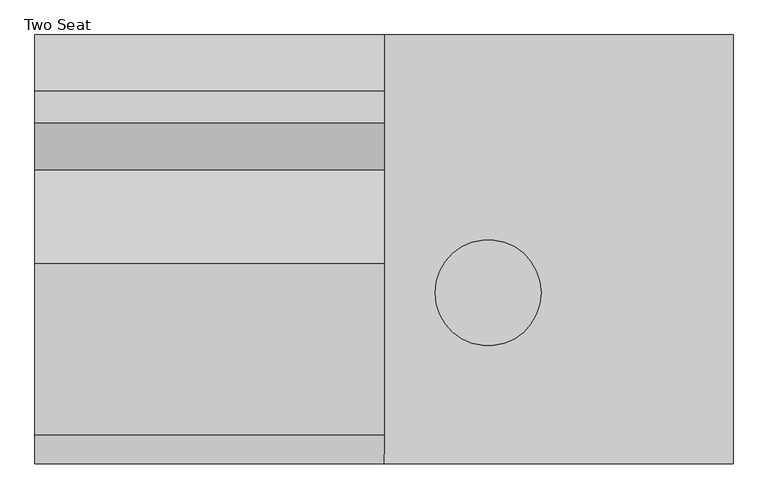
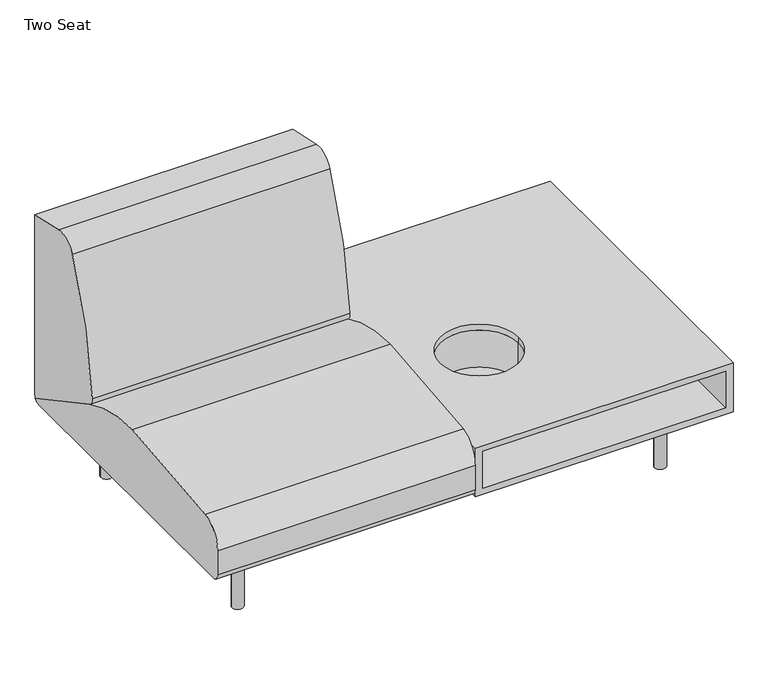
"""IFC4 building model written with IfcOpenShell, lengths in millimetres: furniture geometry, Coalesse_AM_Seating_LoungeChair_Sistema_LegBase_TwoSeat : Two Seat."""

from ifc_helpers import new_model, si_unit, point, frame, frame_2d, origin, origin_with_axes, place, context, project, spatial, polyline, circle_curve, trimmed, segment, composite_curve, outline, extrude, source, transform, mapped, element, save
from ifc_brep_helpers import plane_surface, cylinder_surface, revolved_surface, advanced_brep


def two_seat_571620ac(model_context):
    return source(origin(), model_context, "Body", "SolidModel", [
        extrude(outline(composite_curve([segment(trimmed(circle_curve(frame_2d((989.1765227, 335.9943389)), 6.096), [point((995.2725227, 335.9943389))], [point((983.0805227, 335.9943389))], False, "CARTESIAN"), True, "CONTINUOUS"), segment(trimmed(circle_curve(frame_2d((989.1765227, 335.9943389)), 6.096), [point((983.0805227, 335.9943389))], [point((995.2725227, 335.9943389))], False, "CARTESIAN"), True, "CONTINUOUS")], self_intersect=False)), origin_with_axes(), (0.0, 0.0, 1.0), 4.3662291),
        extrude(outline(composite_curve([segment(trimmed(circle_curve(frame_2d((989.1765227, -327.2630889)), 6.096), [point((995.2725227, -327.2630889))], [point((983.0805227, -327.2630889))], False, "CARTESIAN"), True, "CONTINUOUS"), segment(trimmed(circle_curve(frame_2d((989.1765227, -327.2630889)), 6.096), [point((983.0805227, -327.2630889))], [point((995.2725227, -327.2630889))], False, "CARTESIAN"), True, "CONTINUOUS")], self_intersect=False)), origin_with_axes(), (0.0, 0.0, 1.0), 4.3662291),
        extrude(outline(composite_curve([segment(polyline([(157.0399209, 1001.756375), (201.7356243, 1001.756375)]), True, "CONTINUOUS"), segment(trimmed(circle_curve(frame_2d((201.7356243, 998.708375)), 3.048), [point((201.7356243, 1001.756375))], [point((204.7836243, 998.708375))], False, "CARTESIAN"), True, "CONTINUOUS"), segment(polyline([(204.7836243, 998.708375), (204.7836243, 979.366199)]), True, "CONTINUOUS"), segment(trimmed(circle_curve(frame_2d((201.7356243, 979.366199)), 3.048), [point((204.7836243, 979.366199))], [point((201.7356243, 976.318199))], False, "CARTESIAN"), True, "CONTINUOUS"), segment(polyline([(201.7356243, 976.318199), (157.1249936, 976.318199)]), True, "CONTINUOUS"), segment(trimmed(circle_curve(frame_2d((157.1249936, 979.4512718)), 3.1330728), [point((157.1249936, 976.318199))], [point((153.9919209, 979.4512718))], False, "CARTESIAN"), True, "CONTINUOUS"), segment(polyline([(153.9919209, 979.4512718), (153.9919209, 998.708375)]), True, "CONTINUOUS"), segment(trimmed(circle_curve(frame_2d((157.0399209, 998.708375)), 3.048), [point((153.9919209, 998.708375))], [point((157.0399209, 1001.756375))], False, "CARTESIAN"), True, "CONTINUOUS")], self_intersect=False)), frame((0.0, 222.3519802, 0.0), z_axis=(0.0, 1.0, 0.0), x_axis=(0.0, 0.0, 1.0)), (0.0, 0.0, 1.0), 92.6273161),
        extrude(outline(composite_curve([segment(polyline([(157.0399209, 1001.756375), (201.7356243, 1001.756375)]), True, "CONTINUOUS"), segment(trimmed(circle_curve(frame_2d((201.7356243, 998.708375)), 3.048), [point((201.7356243, 1001.756375))], [point((204.7836243, 998.708375))], False, "CARTESIAN"), True, "CONTINUOUS"), segment(polyline([(204.7836243, 998.708375), (204.7836243, 979.366199)]), True, "CONTINUOUS"), segment(trimmed(circle_curve(frame_2d((201.7356243, 979.366199)), 3.048), [point((204.7836243, 979.366199))], [point((201.7356243, 976.318199))], False, "CARTESIAN"), True, "CONTINUOUS"), segment(polyline([(201.7356243, 976.318199), (157.1249936, 976.318199)]), True, "CONTINUOUS"), segment(trimmed(circle_curve(frame_2d((157.1249936, 979.4512718)), 3.1330728), [point((157.1249936, 976.318199))], [point((153.9919209, 979.4512718))], False, "CARTESIAN"), True, "CONTINUOUS"), segment(polyline([(153.9919209, 979.4512718), (153.9919209, 998.708375)]), True, "CONTINUOUS"), segment(trimmed(circle_curve(frame_2d((157.0399209, 998.708375)), 3.048), [point((153.9919209, 998.708375))], [point((157.0399209, 1001.756375))], False, "CARTESIAN"), True, "CONTINUOUS")], self_intersect=False)), frame((0.0, -314.9792963, 0.0), z_axis=(0.0, 1.0, 0.0), x_axis=(0.0, 0.0, 1.0)), (0.0, 0.0, 1.0), 92.6273161),
        extrude(outline(composite_curve([segment(trimmed(circle_curve(frame_2d((176.3356606, 966.5259944)), 3.048), [point((179.3836606, 966.5259944))], [point((176.3356606, 963.4779944))], False, "CARTESIAN"), True, "CONTINUOUS"), segment(polyline([(176.3356606, 963.4779944), (157.0399209, 963.4779944)]), True, "CONTINUOUS"), segment(trimmed(circle_curve(frame_2d((157.0399209, 966.5259944)), 3.048), [point((157.0399209, 963.4779944))], [point((153.9919209, 966.5259944))], False, "CARTESIAN"), True, "CONTINUOUS"), segment(polyline([(153.9919209, 966.5259944), (153.9919209, 1011.2135501)]), True, "CONTINUOUS"), segment(trimmed(circle_curve(frame_2d((157.056462, 1011.2135501)), 3.0645412), [point((153.9919209, 1011.2135501))], [point((157.056462, 1014.2780913))], False, "CARTESIAN"), True, "CONTINUOUS"), segment(polyline([(157.056462, 1014.2780913), (176.3356606, 1014.2780913)]), True, "CONTINUOUS"), segment(trimmed(circle_curve(frame_2d((176.3356606, 1011.2300913)), 3.048), [point((176.3356606, 1014.2780913))], [point((179.3836606, 1011.2300913))], False, "CARTESIAN"), True, "CONTINUOUS"), segment(polyline([(179.3836606, 1011.2300913), (179.3836606, 966.5259944)]), True, "CONTINUOUS")], self_intersect=False)), frame((0.0, -222.3519802, 0.0), z_axis=(0.0, 1.0, 0.0), x_axis=(0.0, 0.0, 1.0)), (0.0, 0.0, 1.0), 444.7039604),
        extrude(outline(composite_curve([segment(trimmed(circle_curve(frame_2d((989.1765227, 332.3095741)), 16.51), [point((1005.6865227, 332.3095741))], [point((972.6665227, 332.3095741))], False, "CARTESIAN"), True, "CONTINUOUS"), segment(trimmed(circle_curve(frame_2d((989.1765227, 332.3095741)), 16.51), [point((972.6665227, 332.3095741))], [point((1005.6865227, 332.3095741))], False, "CARTESIAN"), True, "CONTINUOUS")], self_intersect=False)), frame((0.0, 0.0, 4.3662291), z_axis=(0.0, 0.0, 1.0), x_axis=(1.0, 0.0, 0.0)), (0.0, 0.0, 1.0), 200.1037709),
        extrude(outline(composite_curve([segment(trimmed(circle_curve(frame_2d((988.7796477, -327.5470741)), 16.51), [point((1005.2896477, -327.5470741))], [point((972.2696477, -327.5470741))], False, "CARTESIAN"), True, "CONTINUOUS"), segment(trimmed(circle_curve(frame_2d((988.7796477, -327.5470741)), 16.51), [point((972.2696477, -327.5470741))], [point((1005.2896477, -327.5470741))], False, "CARTESIAN"), True, "CONTINUOUS")], self_intersect=False)), frame((0.0, 0.0, 4.3662291), z_axis=(0.0, 0.0, 1.0), x_axis=(1.0, 0.0, 0.0)), (0.0, 0.0, 1.0), 200.1037709),
        extrude(outline(composite_curve([segment(polyline([(459.4795619, 775.8234697), (459.4795619, 228.1929806)]), True, "CONTINUOUS"), segment(trimmed(circle_curve(frame_2d((191.495971, 228.1929806)), 267.983591), [point((459.4795619, 228.1929806))], [point((458.9860775, 211.937276))], False, "CARTESIAN"), True, "CONTINUOUS"), segment(polyline([(458.9860775, 211.937276), (183.8457951, 360.6719742)]), True, "CONTINUOUS"), segment(trimmed(circle_curve(frame_2d((195.9245701, 383.0161724)), 25.4), [point((183.8457951, 360.6719742))], [point((170.6161698, 385.1713698))], False, "CARTESIAN"), True, "CONTINUOUS"), segment(trimmed(circle_curve(frame_2d((1327.5544182, 286.6495247)), 1161.1256023), [point((170.6161698, 385.1713698))], [point((271.1088001, 768.4537592))], False, "CARTESIAN"), True, "CONTINUOUS"), segment(trimmed(circle_curve(frame_2d((326.5730192, 743.158661)), 60.96), [point((271.1088001, 768.4537592))], [point((339.9143278, 802.6408523))], False, "CARTESIAN"), True, "CONTINUOUS"), segment(polyline([(339.9143278, 802.6408523), (459.4795619, 775.8234697)]), True, "CONTINUOUS")], self_intersect=False)), frame((-374.8034773, 0.0, 0.0), z_axis=(1.0, 0.0, 0.0), x_axis=(0.0, 1.0, 0.0)), (0.0, 0.0, 1.0), 749.3),
        extrude(outline(composite_curve([segment(trimmed(circle_curve(frame_2d((-438.9184381, 226.822)), 22.352), [point((-438.9184381, 204.47))], [point((-461.2704381, 226.822))], False, "CARTESIAN"), True, "CONTINUOUS"), segment(polyline([(-461.2704381, 226.822), (-461.2704381, 301.4421993)]), True, "CONTINUOUS"), segment(trimmed(circle_curve(frame_2d((-385.0704381, 301.4421993)), 76.2), [point((-461.2704381, 301.4421993))], [point((-398.9277015, 376.3716077))], False, "CARTESIAN"), True, "CONTINUOUS"), segment(trimmed(circle_curve(frame_2d((2.2103559, -1792.6740646)), 2205.8265729), [point((-398.9277015, 376.3716077))], [point((-31.1968175, 412.8995185))], False, "CARTESIAN"), True, "CONTINUOUS"), segment(trimmed(circle_curve(frame_2d((-24.5128424, -28.3829182)), 441.333054), [point((-31.1968175, 412.8995185))], [point((184.5757008, 360.2774035))], False, "CARTESIAN"), True, "CONTINUOUS"), segment(polyline([(184.5757008, 360.2774035), (458.9860775, 211.937276)]), True, "CONTINUOUS"), segment(trimmed(circle_curve(frame_2d((442.3266309, 226.7871991)), 22.3171991), [point((458.9860775, 211.937276))], [point((442.3266309, 204.47))], False, "CARTESIAN"), True, "CONTINUOUS"), segment(polyline([(442.3266309, 204.47), (-438.9184381, 204.47)]), True, "CONTINUOUS")], self_intersect=False)), frame((-374.8034773, 0.0, 0.0), z_axis=(1.0, 0.0, 0.0), x_axis=(0.0, 1.0, 0.0)), (0.0, 0.0, 1.0), 749.3),
        advanced_brep(
        [(484.2332034, -93.7879891, 336.5210652), (711.5952223, -93.7879891, 336.5210652), (711.5952223, -93.7879891, 223.173587), (711.5952223, -93.7879891, 212.4123377), (484.2332034, -93.7879891, 212.4123377), (484.2332034, -93.7879891, 223.173587), (469.9892458, -93.7879891, 212.4123377), (725.8391799, -93.7879891, 212.4123377), (469.9892458, -93.7879891, 336.5210652), (725.8391799, -93.7879891, 336.5210652)],
        [
            (0, 1, circle_curve(frame((597.9142128, -93.7879891, 336.5210652), z_axis=(0.0, 0.0, 1.0), x_axis=(1.0, 0.0, 0.0)), 113.6810095)),
            (1, 2),
            (2, 3),
            (3, 4, circle_curve(frame((597.9142128, -93.7879891, 212.4123377), z_axis=(0.0, 0.0, -1.0), x_axis=(1.0, 0.0, 0.0)), 113.6810095)),
            (4, 5),
            (5, 0),
            (6, 7, circle_curve(frame((597.9142128, -93.7879891, 212.4123377), z_axis=(0.0, 0.0, -1.0), x_axis=(1.0, 0.0, 0.0)), 127.924967)),
            (7, 6, circle_curve(frame((597.9142128, -93.7879891, 212.4123377), z_axis=(0.0, 0.0, -1.0), x_axis=(1.0, 0.0, 0.0)), 127.924967)),
            (3, 4, circle_curve(frame((597.9142128, -93.7879891, 212.4123377), z_axis=(0.0, 0.0, 1.0), x_axis=(1.0, 0.0, 0.0)), 113.6810095)),
            (8, 9, circle_curve(frame((597.9142128, -93.7879891, 336.5210652), z_axis=(0.0, 0.0, 1.0), x_axis=(1.0, 0.0, 0.0)), 127.924967)),
            (9, 8, circle_curve(frame((597.9142128, -93.7879891, 336.5210652), z_axis=(0.0, 0.0, 1.0), x_axis=(1.0, 0.0, 0.0)), 127.924967)),
            (0, 1, circle_curve(frame((597.9142128, -93.7879891, 336.5210652), z_axis=(0.0, 0.0, -1.0), x_axis=(1.0, 0.0, 0.0)), 113.6810095)),
            (8, 6),
            (7, 9),
        ],
        [
            revolved_surface(polyline([(711.5952222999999, -93.7879891, 212.4123377), (711.5952222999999, -93.7879891, 336.5210652)]), (597.9142128, -93.7879891, 212.4123377), (0.0, 0.0, -1.0)),
            plane_surface(frame((711.5952223, -93.7879891, 212.4123377), z_axis=(0.0, 0.0, -1.0), x_axis=(0.0, 1.0, 0.0))),
            plane_surface(frame((711.5952223, -93.7879891, 336.5210652), z_axis=(0.0, 0.0, 1.0), x_axis=(0.0, -1.0, 0.0))),
            cylinder_surface(frame((597.9142128, -93.7879891, 0.0), z_axis=(0.0, 0.0, 1.0), x_axis=(1.0, 0.0, 0.0)), 127.924967),
        ],
        [
            (0, [[1, 2, 3, 4, 5, 6]]),
            (1, [[7, 8], [-4, 9]]),
            (2, [[10, 11], [12, -1]]),
            (0, [[-12, -6, -5, -9, -3, -2]]),
            (3, [[-10, 13, -8, 14]]),
            (3, [[-11, -14, -7, -13]]),
        ],
    ),
        advanced_brep(
        [(1102.9069667, -461.2704381, 336.5211742), (396.2928302, -461.2704381, 336.5211742), (396.2928302, 459.4795619, 336.5211742), (1102.9069667, 459.4795619, 336.5211742), (711.5952223, -93.7879891, 336.5211742), (484.2332034, -93.7879891, 336.5211742), (1123.7965227, -461.2704381, 354.7774), (374.4965227, -461.2704381, 354.7774), (374.4965227, -461.2704381, 204.47), (1123.7965227, -461.2704381, 204.47), (1102.9069667, -461.2704381, 223.173587), (396.2928302, -461.2704381, 223.173587), (1123.7965227, 459.4795619, 354.7774), (1123.7965227, 459.4795619, 204.47), (374.4965227, 459.4795619, 204.47), (374.4965227, 459.4795619, 354.7774), (396.2928302, 459.4795619, 223.173587), (1102.9069667, 459.4795619, 223.173587), (484.2332034, -93.7879891, 354.7774), (711.5952223, -93.7879891, 354.7774)],
        [
            (0, 1),
            (1, 2),
            (2, 3),
            (3, 0),
            (4, 5, circle_curve(frame((597.9142128, -93.7879891, 336.5211742), z_axis=(0.0, 0.0, 1.0), x_axis=(1.0, 0.0, 0.0)), 113.6810095)),
            (5, 4, circle_curve(frame((597.9142128, -93.7879891, 336.5211742), z_axis=(0.0, 0.0, 1.0), x_axis=(1.0, 0.0, 0.0)), 113.6810095)),
            (6, 7),
            (7, 8),
            (8, 9),
            (9, 6),
            (0, 10),
            (10, 11),
            (11, 1),
            (12, 13),
            (13, 14),
            (14, 15),
            (15, 12),
            (2, 16),
            (16, 17),
            (17, 3),
            (6, 12),
            (15, 7),
            (18, 19, circle_curve(frame((597.9142128, -93.7879891, 354.7774), z_axis=(0.0, 0.0, -1.0), x_axis=(1.0, 0.0, 0.0)), 113.6810095)),
            (19, 18, circle_curve(frame((597.9142128, -93.7879891, 354.7774), z_axis=(0.0, 0.0, -1.0), x_axis=(1.0, 0.0, 0.0)), 113.6810095)),
            (14, 8),
            (13, 9),
            (11, 16),
            (17, 10),
            (18, 5),
            (4, 19),
        ],
        [
            plane_surface(frame((396.2928302, -461.2704381, 336.5211742), z_axis=(0.0, 0.0, -1.0), x_axis=(0.0, 1.0, 0.0))),
            plane_surface(frame((378.0346424, -461.2704381, 354.7774), z_axis=(0.0, -1.0, 0.0), x_axis=(-1.0, 0.0, 0.0))),
            plane_surface(frame((378.0346424, 459.4795619, 354.7774), z_axis=(0.0, 1.0, 0.0), x_axis=(1.0, 0.0, 0.0))),
            plane_surface(frame((1123.7965227, -461.2704381, 354.7774), z_axis=(0.0, 0.0, 1.0), x_axis=(0.0, 1.0, 0.0))),
            plane_surface(frame((374.4965227, -461.2704381, 354.7774), z_axis=(-1.0, 0.0, 0.0), x_axis=(0.0, 1.0, 0.0))),
            plane_surface(frame((374.4965227, -461.2704381, 204.47), z_axis=(0.0, 0.0, -1.0), x_axis=(0.0, 1.0, 0.0))),
            plane_surface(frame((1123.7965227, -461.2704381, 204.47), z_axis=(1.0, 0.0, 0.0), x_axis=(0.0, 1.0, 0.0))),
            plane_surface(frame((396.2928302, -461.2704381, 223.173587), z_axis=(1.0, 0.0, 0.0), x_axis=(0.0, 1.0, 0.0))),
            plane_surface(frame((1102.9069667, -461.2704381, 336.5211742), z_axis=(-1.0, 0.0, 0.0), x_axis=(0.0, 1.0, 0.0))),
            plane_surface(frame((1102.9069667, -461.2704381, 223.173587), z_axis=(0.0, 0.0, 1.0), x_axis=(0.0, 1.0, 0.0))),
            revolved_surface(polyline([(711.5952222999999, -93.7879891, 336.5211742), (711.5952222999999, -93.7879891, 354.7774)]), (597.9142128, -93.7879891, 354.7774), (0.0, 0.0, -1.0)),
        ],
        [
            (0, [[1, 2, 3, 4], [5, 6]]),
            (1, [[7, 8, 9, 10], [11, 12, 13, -1]]),
            (2, [[14, 15, 16, 17], [-3, 18, 19, 20]]),
            (3, [[-7, 21, -17, 22], [23, 24]]),
            (4, [[-8, -22, -16, 25]]),
            (5, [[-9, -25, -15, 26]]),
            (6, [[-10, -26, -14, -21]]),
            (7, [[-13, 27, -18, -2]]),
            (8, [[-11, -4, -20, 28]]),
            (9, [[-12, -28, -19, -27]]),
            (10, [[29, -5, 30, -23]]),
            (10, [[-29, -24, -30, -6]]),
        ],
    ),
        extrude(outline(composite_curve([segment(trimmed(circle_curve(frame_2d((-240.1834773, 335.9943389)), 6.096), [point((-246.2794773, 335.9943389))], [point((-234.0874773, 335.9943389))], False, "CARTESIAN"), True, "CONTINUOUS"), segment(trimmed(circle_curve(frame_2d((-240.1834773, 335.9943389)), 6.096), [point((-234.0874773, 335.9943389))], [point((-246.2794773, 335.9943389))], False, "CARTESIAN"), True, "CONTINUOUS")], self_intersect=False)), origin_with_axes(), (0.0, 0.0, 1.0), 4.3662291),
        extrude(outline(composite_curve([segment(trimmed(circle_curve(frame_2d((-240.1834773, -327.2630889)), 6.096), [point((-246.2794773, -327.2630889))], [point((-234.0874773, -327.2630889))], False, "CARTESIAN"), True, "CONTINUOUS"), segment(trimmed(circle_curve(frame_2d((-240.1834773, -327.2630889)), 6.096), [point((-234.0874773, -327.2630889))], [point((-246.2794773, -327.2630889))], False, "CARTESIAN"), True, "CONTINUOUS")], self_intersect=False)), origin_with_axes(), (0.0, 0.0, 1.0), 4.3662291),
        extrude(outline(composite_curve([segment(trimmed(circle_curve(frame_2d((157.0399209, -249.7153296)), 3.048), [point((157.0399209, -252.7633296))], [point((153.9919209, -249.7153296))], False, "CARTESIAN"), True, "CONTINUOUS"), segment(polyline([(153.9919209, -249.7153296), (153.9919209, -230.4582264)]), True, "CONTINUOUS"), segment(trimmed(circle_curve(frame_2d((157.1249936, -230.4582264)), 3.1330728), [point((153.9919209, -230.4582264))], [point((157.1249936, -227.3251537))], False, "CARTESIAN"), True, "CONTINUOUS"), segment(polyline([(157.1249936, -227.3251537), (201.7356243, -227.3251537)]), True, "CONTINUOUS"), segment(trimmed(circle_curve(frame_2d((201.7356243, -230.3731537)), 3.048), [point((201.7356243, -227.3251537))], [point((204.7836243, -230.3731537))], False, "CARTESIAN"), True, "CONTINUOUS"), segment(polyline([(204.7836243, -230.3731537), (204.7836243, -249.7153296)]), True, "CONTINUOUS"), segment(trimmed(circle_curve(frame_2d((201.7356243, -249.7153296)), 3.048), [point((204.7836243, -249.7153296))], [point((201.7356243, -252.7633296))], False, "CARTESIAN"), True, "CONTINUOUS"), segment(polyline([(201.7356243, -252.7633296), (157.0399209, -252.7633296)]), True, "CONTINUOUS")], self_intersect=False)), frame((0.0, 222.3519802, 0.0), z_axis=(0.0, 1.0, 0.0), x_axis=(0.0, 0.0, 1.0)), (0.0, 0.0, 1.0), 92.6273161),
        extrude(outline(composite_curve([segment(trimmed(circle_curve(frame_2d((157.0399209, -249.7153296)), 3.048), [point((157.0399209, -252.7633296))], [point((153.9919209, -249.7153296))], False, "CARTESIAN"), True, "CONTINUOUS"), segment(polyline([(153.9919209, -249.7153296), (153.9919209, -230.4582264)]), True, "CONTINUOUS"), segment(trimmed(circle_curve(frame_2d((157.1249936, -230.4582264)), 3.1330728), [point((153.9919209, -230.4582264))], [point((157.1249936, -227.3251537))], False, "CARTESIAN"), True, "CONTINUOUS"), segment(polyline([(157.1249936, -227.3251537), (201.7356243, -227.3251537)]), True, "CONTINUOUS"), segment(trimmed(circle_curve(frame_2d((201.7356243, -230.3731537)), 3.048), [point((201.7356243, -227.3251537))], [point((204.7836243, -230.3731537))], False, "CARTESIAN"), True, "CONTINUOUS"), segment(polyline([(204.7836243, -230.3731537), (204.7836243, -249.7153296)]), True, "CONTINUOUS"), segment(trimmed(circle_curve(frame_2d((201.7356243, -249.7153296)), 3.048), [point((204.7836243, -249.7153296))], [point((201.7356243, -252.7633296))], False, "CARTESIAN"), True, "CONTINUOUS"), segment(polyline([(201.7356243, -252.7633296), (157.0399209, -252.7633296)]), True, "CONTINUOUS")], self_intersect=False)), frame((0.0, -314.9792963, 0.0), z_axis=(0.0, 1.0, 0.0), x_axis=(0.0, 0.0, 1.0)), (0.0, 0.0, 1.0), 92.6273161),
        extrude(outline(composite_curve([segment(polyline([(179.3836606, -217.532949), (179.3836606, -262.2370459)]), True, "CONTINUOUS"), segment(trimmed(circle_curve(frame_2d((176.3356606, -262.2370459)), 3.048), [point((179.3836606, -262.2370459))], [point((176.3356606, -265.2850459))], False, "CARTESIAN"), True, "CONTINUOUS"), segment(polyline([(176.3356606, -265.2850459), (157.056462, -265.2850459)]), True, "CONTINUOUS"), segment(trimmed(circle_curve(frame_2d((157.056462, -262.2205047)), 3.0645412), [point((157.056462, -265.2850459))], [point((153.9919209, -262.2205047))], False, "CARTESIAN"), True, "CONTINUOUS"), segment(polyline([(153.9919209, -262.2205047), (153.9919209, -217.532949)]), True, "CONTINUOUS"), segment(trimmed(circle_curve(frame_2d((157.0399209, -217.532949)), 3.048), [point((153.9919209, -217.532949))], [point((157.0399209, -214.484949))], False, "CARTESIAN"), True, "CONTINUOUS"), segment(polyline([(157.0399209, -214.484949), (176.3356606, -214.484949)]), True, "CONTINUOUS"), segment(trimmed(circle_curve(frame_2d((176.3356606, -217.532949)), 3.048), [point((176.3356606, -214.484949))], [point((179.3836606, -217.532949))], False, "CARTESIAN"), True, "CONTINUOUS")], self_intersect=False)), frame((0.0, -222.3519802, 0.0), z_axis=(0.0, 1.0, 0.0), x_axis=(0.0, 0.0, 1.0)), (0.0, 0.0, 1.0), 444.7039604),
        extrude(outline(composite_curve([segment(trimmed(circle_curve(frame_2d((-240.1834773, 332.3095741)), 16.51), [point((-256.6934773, 332.3095741))], [point((-223.6734773, 332.3095741))], False, "CARTESIAN"), True, "CONTINUOUS"), segment(trimmed(circle_curve(frame_2d((-240.1834773, 332.3095741)), 16.51), [point((-223.6734773, 332.3095741))], [point((-256.6934773, 332.3095741))], False, "CARTESIAN"), True, "CONTINUOUS")], self_intersect=False)), frame((0.0, 0.0, 4.3662291), z_axis=(0.0, 0.0, 1.0), x_axis=(1.0, 0.0, 0.0)), (0.0, 0.0, 1.0), 200.1037709),
        extrude(outline(composite_curve([segment(trimmed(circle_curve(frame_2d((-239.7866023, -327.5470741)), 16.51), [point((-256.2966023, -327.5470741))], [point((-223.2766023, -327.5470741))], False, "CARTESIAN"), True, "CONTINUOUS"), segment(trimmed(circle_curve(frame_2d((-239.7866023, -327.5470741)), 16.51), [point((-223.2766023, -327.5470741))], [point((-256.2966023, -327.5470741))], False, "CARTESIAN"), True, "CONTINUOUS")], self_intersect=False)), frame((0.0, 0.0, 4.3662291), z_axis=(0.0, 0.0, 1.0), x_axis=(1.0, 0.0, 0.0)), (0.0, 0.0, 1.0), 200.1037709),
    ])


if __name__ == "__main__":
    model = new_model("IFC4")
    model_context = context("Model", 3, world=origin())
    ifc_project = project(units=[si_unit("LENGTHUNIT", "METRE", prefix="MILLI")], contexts=[model_context])
    site = spatial("IfcSite", under=ifc_project)
    building = spatial("IfcBuilding", under=site)
    placement = place(None, origin())
    two_seat_shape = two_seat_571620ac(model_context)
    element("IfcFurniture", 1, ObjectType="Coalesse_AM_Seating_LoungeChair_Sistema_LegBase_TwoSeat : Two Seat", at=placement, inside=building, context=model_context, shape_type="MappedRepresentation", body=[
        mapped(two_seat_shape, transform((0.0, 0.0, 0.0), x_axis=(1.0, 0.0, 0.0), y_axis=(0.0, 1.0, 0.0), z_axis=(0.0, 0.0, 1.0))),
    ])
    save(model, "model.ifc")
